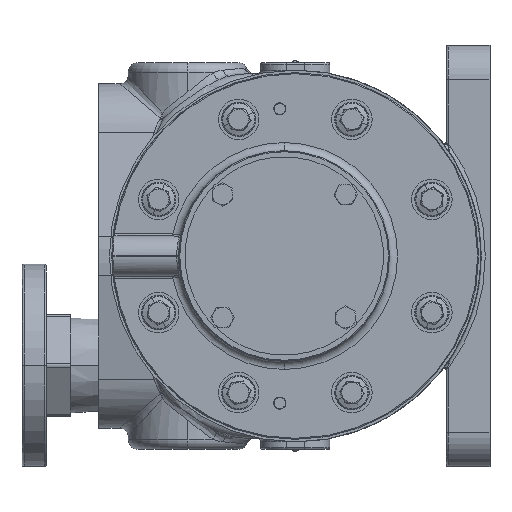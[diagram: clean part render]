
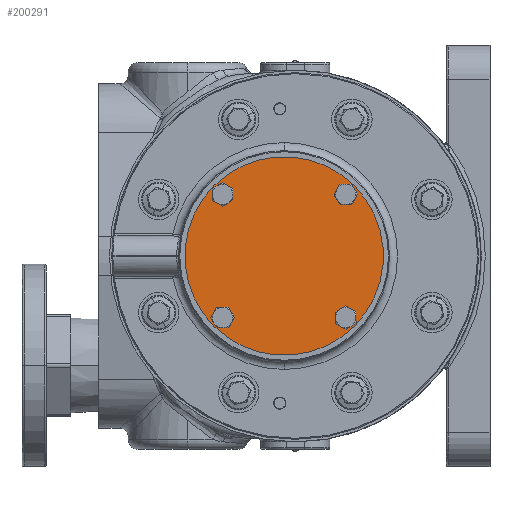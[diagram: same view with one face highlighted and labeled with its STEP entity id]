
A CAD part, left-side view. The second image highlights one B-rep face of the part: STEP entity #200291.
In plain terms, the highlighted planar face has unit normal (-1, 0, 0).
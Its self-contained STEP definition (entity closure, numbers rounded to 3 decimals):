
#2338 = VERTEX_POINT ( 'NONE', #288534 ) ;
#8229 = EDGE_CURVE ( 'NONE', #284560, #78796, #363930, .T. ) ;
#9923 = CARTESIAN_POINT ( 'NONE',  ( -126.625, 35.916, -30.406 ) ) ;
#10621 = CARTESIAN_POINT ( 'NONE',  ( -126.625, 5.51, 0. ) ) ;
#11201 = ORIENTED_EDGE ( 'NONE', *, *, #191943, .F. ) ;
#14155 = CARTESIAN_POINT ( 'NONE',  ( -126.625, -24.896, -30.406 ) ) ;
#22142 = EDGE_CURVE ( 'NONE', #78796, #284560, #250780, .T. ) ;
#23171 = CARTESIAN_POINT ( 'NONE',  ( -126.625, -31.613, -37.123 ) ) ;
#27340 = CARTESIAN_POINT ( 'NONE',  ( -126.625, -24.896, 30.406 ) ) ;
#38861 = ORIENTED_EDGE ( 'NONE', *, *, #189830, .F. ) ;
#44047 = FACE_OUTER_BOUND ( 'NONE', #172661, .T. ) ;
#46014 = CIRCLE ( 'NONE', #354555, 3.5 ) ;
#47535 = DIRECTION ( 'NONE',  ( 0., 0.707, -0.707 ) ) ;
#65112 = DIRECTION ( 'NONE',  ( -1., 0., 0. ) ) ;
#75297 = FACE_BOUND ( 'NONE', #317210, .T. ) ;
#78796 = VERTEX_POINT ( 'NONE', #257067 ) ;
#80032 = AXIS2_PLACEMENT_3D ( 'NONE', #199769, #304387, #170694 ) ;
#80302 = FACE_BOUND ( 'NONE', #420878, .T. ) ;
#80670 = DIRECTION ( 'NONE',  ( -1., 0., 0. ) ) ;
#84757 = AXIS2_PLACEMENT_3D ( 'NONE', #293686, #65112, #164192 ) ;
#96477 = EDGE_CURVE ( 'NONE', #182869, #2338, #158698, .T. ) ;
#98514 = DIRECTION ( 'NONE',  ( 0., 0.707, -0.707 ) ) ;
#102214 = CIRCLE ( 'NONE', #262549, 3.5 ) ;
#108984 = CARTESIAN_POINT ( 'NONE',  ( -126.625, 35.916, 30.406 ) ) ;
#110724 = AXIS2_PLACEMENT_3D ( 'NONE', #27340, #297955, #98514 ) ;
#115629 = CARTESIAN_POINT ( 'NONE',  ( -126.625, -24.896, 30.406 ) ) ;
#133342 = EDGE_LOOP ( 'NONE', ( #221259, #240619 ) ) ;
#139119 = EDGE_CURVE ( 'NONE', #2338, #182869, #310387, .T. ) ;
#139285 = ORIENTED_EDGE ( 'NONE', *, *, #166359, .T. ) ;
#151210 = ORIENTED_EDGE ( 'NONE', *, *, #139119, .F. ) ;
#151310 = DIRECTION ( 'NONE',  ( 0., 0.707, -0.707 ) ) ;
#154190 = DIRECTION ( 'NONE',  ( 0., 0.707, -0.707 ) ) ;
#155944 = VERTEX_POINT ( 'NONE', #400903 ) ;
#156344 = CARTESIAN_POINT ( 'NONE',  ( -126.625, -24.896, -30.406 ) ) ;
#157749 = DIRECTION ( 'NONE',  ( 0., 0.707, -0.707 ) ) ;
#158698 = CIRCLE ( 'NONE', #408836, 3.5 ) ;
#164192 = DIRECTION ( 'NONE',  ( 0., 0.707, -0.707 ) ) ;
#165560 = EDGE_CURVE ( 'NONE', #417620, #233256, #299983, .T. ) ;
#166359 = EDGE_CURVE ( 'NONE', #227764, #342092, #371813, .T. ) ;
#170694 = DIRECTION ( 'NONE',  ( 0., 0.707, -0.707 ) ) ;
#172661 = EDGE_LOOP ( 'NONE', ( #332684, #139285 ) ) ;
#178388 = DIRECTION ( 'NONE',  ( 0., 0.707, -0.707 ) ) ;
#181934 = DIRECTION ( 'NONE',  ( -1., 0., 0. ) ) ;
#182869 = VERTEX_POINT ( 'NONE', #207441 ) ;
#189830 = EDGE_CURVE ( 'NONE', #155944, #224234, #46014, .T. ) ;
#191943 = EDGE_CURVE ( 'NONE', #224234, #155944, #376808, .T. ) ;
#199769 = CARTESIAN_POINT ( 'NONE',  ( -126.625, 5.51, 0. ) ) ;
#200291 = ADVANCED_FACE ( 'NONE', ( #75297, #424114, #80302, #408679, #44047 ), #324316, .T. ) ;
#204287 = ORIENTED_EDGE ( 'NONE', *, *, #165560, .F. ) ;
#207441 = CARTESIAN_POINT ( 'NONE',  ( -126.625, 33.441, 32.88 ) ) ;
#209677 = CARTESIAN_POINT ( 'NONE',  ( -126.625, -22.421, 27.931 ) ) ;
#213709 = CIRCLE ( 'NONE', #80032, 49. ) ;
#214345 = DIRECTION ( 'NONE',  ( -1., 0., 0. ) ) ;
#218547 = AXIS2_PLACEMENT_3D ( 'NONE', #156344, #389161, #157749 ) ;
#221259 = ORIENTED_EDGE ( 'NONE', *, *, #22142, .F. ) ;
#224234 = VERTEX_POINT ( 'NONE', #245688 ) ;
#227764 = VERTEX_POINT ( 'NONE', #356593 ) ;
#233256 = VERTEX_POINT ( 'NONE', #271950 ) ;
#240471 = ORIENTED_EDGE ( 'NONE', *, *, #96477, .F. ) ;
#240619 = ORIENTED_EDGE ( 'NONE', *, *, #8229, .F. ) ;
#244462 = AXIS2_PLACEMENT_3D ( 'NONE', #23171, #420513, #154190 ) ;
#245688 = CARTESIAN_POINT ( 'NONE',  ( -126.625, 33.441, -27.931 ) ) ;
#250780 = CIRCLE ( 'NONE', #218547, 3.5 ) ;
#257067 = CARTESIAN_POINT ( 'NONE',  ( -126.625, -22.421, -32.88 ) ) ;
#262549 = AXIS2_PLACEMENT_3D ( 'NONE', #115629, #80670, #178388 ) ;
#267415 = CARTESIAN_POINT ( 'NONE',  ( -126.625, -29.138, 34.648 ) ) ;
#271950 = CARTESIAN_POINT ( 'NONE',  ( -126.625, -27.37, 32.88 ) ) ;
#276357 = DIRECTION ( 'NONE',  ( -1., 0., 0. ) ) ;
#280414 = DIRECTION ( 'NONE',  ( -1., 0., 0. ) ) ;
#284560 = VERTEX_POINT ( 'NONE', #324141 ) ;
#288534 = CARTESIAN_POINT ( 'NONE',  ( -126.625, 38.39, 27.931 ) ) ;
#293686 = CARTESIAN_POINT ( 'NONE',  ( -126.625, 35.916, -30.406 ) ) ;
#295561 = ORIENTED_EDGE ( 'NONE', *, *, #356859, .F. ) ;
#297955 = DIRECTION ( 'NONE',  ( -1., 0., 0. ) ) ;
#299983 = CIRCLE ( 'NONE', #110724, 3.5 ) ;
#300682 = AXIS2_PLACEMENT_3D ( 'NONE', #10621, #214345, #410834 ) ;
#304387 = DIRECTION ( 'NONE',  ( -1., 0., 0. ) ) ;
#310387 = CIRCLE ( 'NONE', #314578, 3.5 ) ;
#314578 = AXIS2_PLACEMENT_3D ( 'NONE', #384121, #181934, #151310 ) ;
#317210 = EDGE_LOOP ( 'NONE', ( #38861, #11201 ) ) ;
#318637 = EDGE_LOOP ( 'NONE', ( #151210, #240471 ) ) ;
#324141 = CARTESIAN_POINT ( 'NONE',  ( -126.625, -27.37, -27.931 ) ) ;
#324316 = PLANE ( 'NONE',  #244462 ) ;
#332684 = ORIENTED_EDGE ( 'NONE', *, *, #336566, .T. ) ;
#336566 = EDGE_CURVE ( 'NONE', #342092, #227764, #213709, .T. ) ;
#341907 = DIRECTION ( 'NONE',  ( 0., 0.707, -0.707 ) ) ;
#342092 = VERTEX_POINT ( 'NONE', #267415 ) ;
#349797 = AXIS2_PLACEMENT_3D ( 'NONE', #14155, #280414, #47535 ) ;
#354555 = AXIS2_PLACEMENT_3D ( 'NONE', #9923, #407265, #375131 ) ;
#356593 = CARTESIAN_POINT ( 'NONE',  ( -126.625, 40.158, -34.648 ) ) ;
#356859 = EDGE_CURVE ( 'NONE', #233256, #417620, #102214, .T. ) ;
#363930 = CIRCLE ( 'NONE', #349797, 3.5 ) ;
#371813 = CIRCLE ( 'NONE', #300682, 49. ) ;
#375131 = DIRECTION ( 'NONE',  ( 0., 0.707, -0.707 ) ) ;
#376808 = CIRCLE ( 'NONE', #84757, 3.5 ) ;
#384121 = CARTESIAN_POINT ( 'NONE',  ( -126.625, 35.916, 30.406 ) ) ;
#389161 = DIRECTION ( 'NONE',  ( -1., 0., 0. ) ) ;
#400903 = CARTESIAN_POINT ( 'NONE',  ( -126.625, 38.39, -32.88 ) ) ;
#407265 = DIRECTION ( 'NONE',  ( -1., 0., 0. ) ) ;
#408679 = FACE_BOUND ( 'NONE', #133342, .T. ) ;
#408836 = AXIS2_PLACEMENT_3D ( 'NONE', #108984, #276357, #341907 ) ;
#410834 = DIRECTION ( 'NONE',  ( 0., 0.707, -0.707 ) ) ;
#417620 = VERTEX_POINT ( 'NONE', #209677 ) ;
#420513 = DIRECTION ( 'NONE',  ( -1., 0., 0. ) ) ;
#420878 = EDGE_LOOP ( 'NONE', ( #204287, #295561 ) ) ;
#424114 = FACE_BOUND ( 'NONE', #318637, .T. ) ;
